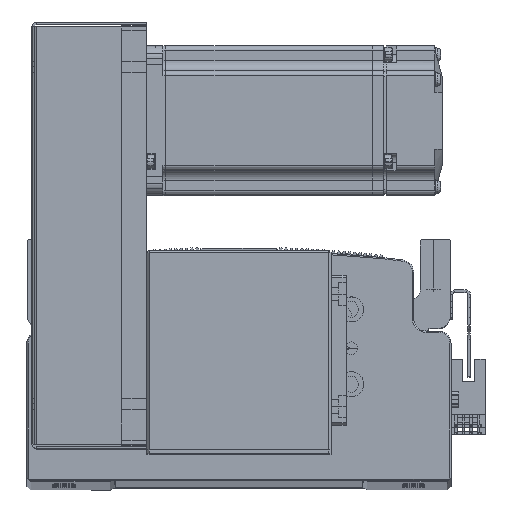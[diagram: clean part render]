
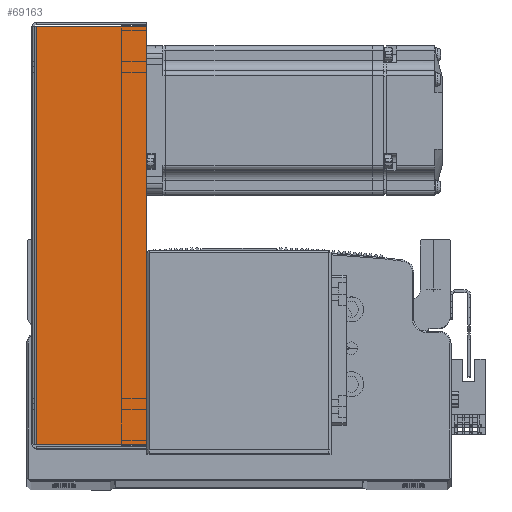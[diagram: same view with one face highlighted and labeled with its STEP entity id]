
A CAD part, top view. The second image highlights one B-rep face of the part: STEP entity #69163.
In plain terms, the highlighted planar face has unit normal (0, 0, 1) as drawn and (0, 0, -1) by its records, which use the part's own axes.
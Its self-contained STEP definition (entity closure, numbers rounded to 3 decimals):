
#3194 = AXIS2_PLACEMENT_3D ( 'NONE', #10776, #10770, #10807 ) ;
#8366 = FACE_OUTER_BOUND ( 'NONE', #75870, .T. ) ;
#10770 = DIRECTION ( 'NONE',  ( 0., 0., 1. ) ) ;
#10776 = CARTESIAN_POINT ( 'NONE',  ( 0., 0., -40.5 ) ) ;
#10806 = PLANE ( 'NONE',  #3194 ) ;
#10807 = DIRECTION ( 'NONE',  ( 0., -1., 0. ) ) ;
#12345 = VECTOR ( 'NONE', #16562, 1000. ) ;
#12360 = LINE ( 'NONE', #16512, #12345 ) ;
#12364 = LINE ( 'NONE', #16525, #12366 ) ;
#12366 = VECTOR ( 'NONE', #16543, 1000. ) ;
#12374 = LINE ( 'NONE', #16514, #12392 ) ;
#12377 = VECTOR ( 'NONE', #16535, 1000. ) ;
#12388 = LINE ( 'NONE', #16534, #12377 ) ;
#12392 = VECTOR ( 'NONE', #16529, 1000. ) ;
#16512 = CARTESIAN_POINT ( 'NONE',  ( -83.793, 0., -40.5 ) ) ;
#16514 = CARTESIAN_POINT ( 'NONE',  ( 84.5, 45., -40.5 ) ) ;
#16525 = CARTESIAN_POINT ( 'NONE',  ( 0., 0.737, -40.5 ) ) ;
#16529 = DIRECTION ( 'NONE',  ( 1., 0., 0. ) ) ;
#16534 = CARTESIAN_POINT ( 'NONE',  ( 83.793, 0., -40.5 ) ) ;
#16535 = DIRECTION ( 'NONE',  ( 0., 1., 0. ) ) ;
#16543 = DIRECTION ( 'NONE',  ( 1., 0., 0. ) ) ;
#16562 = DIRECTION ( 'NONE',  ( 0., 1., 0. ) ) ;
#25199 = EDGE_CURVE ( 'NONE', #71395, #71401, #12374, .T. ) ;
#25203 = EDGE_CURVE ( 'NONE', #71382, #71432, #12364, .T. ) ;
#25212 = EDGE_CURVE ( 'NONE', #71432, #71401, #12388, .T. ) ;
#25220 = EDGE_CURVE ( 'NONE', #71382, #71395, #12360, .T. ) ;
#30058 = CARTESIAN_POINT ( 'NONE',  ( -83.793, 0.737, -40.5 ) ) ;
#30073 = CARTESIAN_POINT ( 'NONE',  ( -83.793, 45., -40.5 ) ) ;
#30076 = CARTESIAN_POINT ( 'NONE',  ( 83.793, 45., -40.5 ) ) ;
#30142 = CARTESIAN_POINT ( 'NONE',  ( 83.793, 0.737, -40.5 ) ) ;
#54646 = ORIENTED_EDGE ( 'NONE', *, *, #25203, .F. ) ;
#54648 = ORIENTED_EDGE ( 'NONE', *, *, #25212, .F. ) ;
#54672 = ORIENTED_EDGE ( 'NONE', *, *, #25220, .T. ) ;
#54710 = ORIENTED_EDGE ( 'NONE', *, *, #25199, .T. ) ;
#69163 = ADVANCED_FACE ( 'NONE', ( #8366 ), #10806, .F. ) ;
#71382 = VERTEX_POINT ( 'NONE', #30058 ) ;
#71395 = VERTEX_POINT ( 'NONE', #30073 ) ;
#71401 = VERTEX_POINT ( 'NONE', #30076 ) ;
#71432 = VERTEX_POINT ( 'NONE', #30142 ) ;
#75870 = EDGE_LOOP ( 'NONE', ( #54646, #54672, #54710, #54648 ) ) ;
